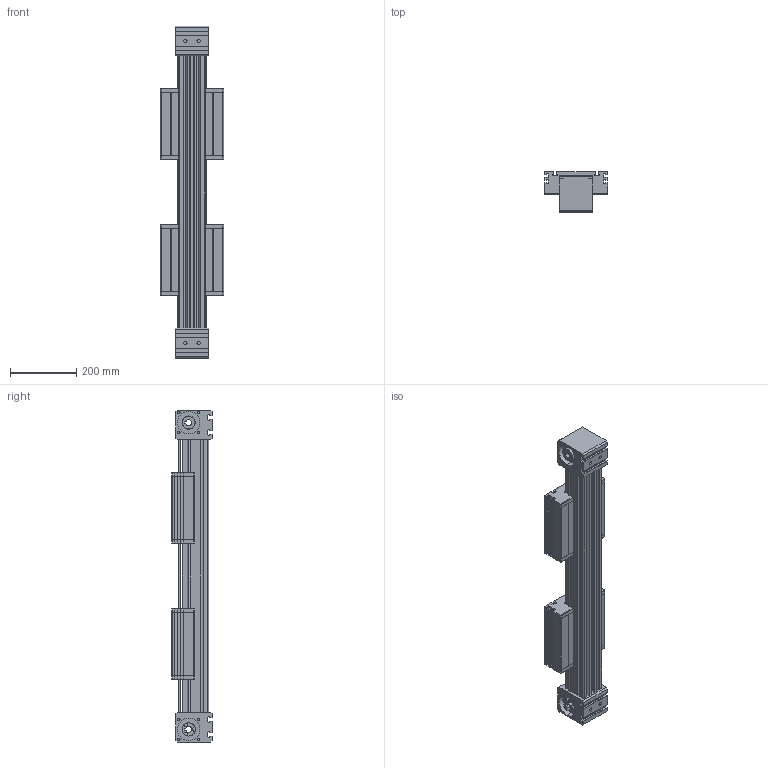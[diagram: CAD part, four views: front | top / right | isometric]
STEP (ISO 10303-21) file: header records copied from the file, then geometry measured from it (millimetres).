
FILE_DESCRIPTION (( 'STEP AP214' ), '1' );
FILE_NAME ('ELZZ80S.STEP', '2022-07-19T13:14:00', ( '' ), ( '' ), 'SwSTEP 2.0', 'SolidWorks 2020', '' );
FILE_SCHEMA (( 'AUTOMOTIVE_DESIGN' ));
Length unit declared in the file: millimetre
Products named in the file (4): ELZZ80S; carriage^ELZZ80S_carriage version 0; profile^ELZZ80S_2x guide rods; timing belt reverse unit^ELZZ80S_coupling claw pos.1
Assembly tree (5 placements, depth 2):
  ELZZ80S
    profile^ELZZ80S_2x guide rods
    carriage^ELZZ80S_carriage version 0  x2
    timing belt reverse unit^ELZZ80S_coupling claw pos.1  x2
Bounding box: 190 x 122 x 1000 mm (x, y, z)
Volume: 10123309.6 mm3; surface area: 1108475.3 mm2
Topology: 13 solids, 13 shells, 868 faces, 2406 edges, 1592 vertices
Faces by surface type: plane 646, cylinder 202, torus 16, cone 4
Entity records: 17653 total; most frequent: CARTESIAN_POINT 2674, ORIENTED_EDGE 2634, DIRECTION 2533, EDGE_CURVE 1317, VECTOR 1071, LINE 1071, VERTEX_POINT 872, AXIS2_PLACEMENT_3D 731
